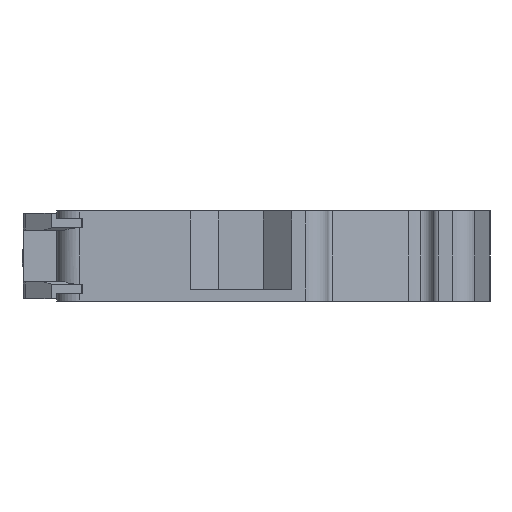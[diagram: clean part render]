
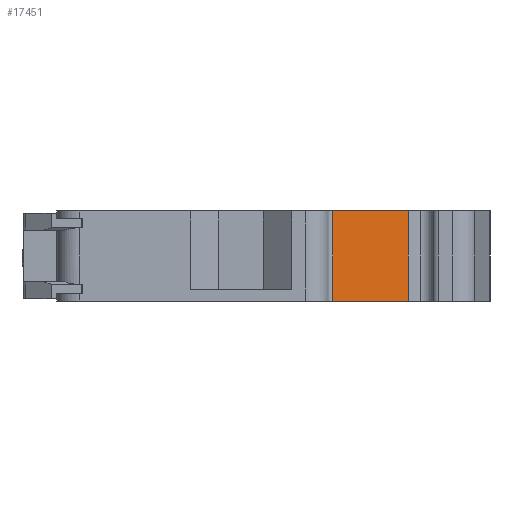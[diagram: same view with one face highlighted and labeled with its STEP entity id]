
A CAD part, left-side view. The second image highlights one B-rep face of the part: STEP entity #17451.
In plain terms, the highlighted planar face has unit normal (-0.991, -0.136, 0).
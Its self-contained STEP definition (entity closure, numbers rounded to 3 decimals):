
#17451 = ADVANCED_FACE('',(#17452),#17466,.F.);
#17452 = FACE_BOUND('',#17453,.T.);
#17453 = EDGE_LOOP('',(#17454,#17477,#17493,#17509));
#17454 = ORIENTED_EDGE('',*,*,#17455,.T.);
#17455 = EDGE_CURVE('',#17456,#17458,#17460,.T.);
#17456 = VERTEX_POINT('',#17457);
#17457 = CARTESIAN_POINT('',(43.402,328.038,-8.));
#17458 = VERTEX_POINT('',#17459);
#17459 = CARTESIAN_POINT('',(43.402,328.038,0.));
#17460 = SURFACE_CURVE('',#17461,(#17465),.PCURVE_S1.);
#17461 = LINE('',#17462,#17463);
#17462 = CARTESIAN_POINT('',(43.402,328.038,-8.));
#17463 = VECTOR('',#17464,1.);
#17464 = DIRECTION('',(0.,0.,1.));
#17465 = PCURVE('',#17466,#17471);
#17466 = PLANE('',#17467);
#17467 = AXIS2_PLACEMENT_3D('',#17468,#17469,#17470);
#17468 = CARTESIAN_POINT('',(43.402,328.038,-8.));
#17469 = DIRECTION('',(0.991,0.136,0.));
#17470 = DIRECTION('',(0.136,-0.991,0.));
#17471 = DEFINITIONAL_REPRESENTATION('',(#17472),#17476);
#17472 = LINE('',#17473,#17474);
#17473 = CARTESIAN_POINT('',(0.,0.));
#17474 = VECTOR('',#17475,1.);
#17475 = DIRECTION('',(0.,-1.));
#17476 = ( GEOMETRIC_REPRESENTATION_CONTEXT(2) 
PARAMETRIC_REPRESENTATION_CONTEXT() REPRESENTATION_CONTEXT('2D SPACE',''
  ) );
#17477 = ORIENTED_EDGE('',*,*,#17478,.T.);
#17478 = EDGE_CURVE('',#17458,#17479,#17481,.T.);
#17479 = VERTEX_POINT('',#17480);
#17480 = CARTESIAN_POINT('',(42.483,334.743,0.));
#17481 = SURFACE_CURVE('',#17482,(#17486),.PCURVE_S1.);
#17482 = LINE('',#17483,#17484);
#17483 = CARTESIAN_POINT('',(43.402,328.038,0.));
#17484 = VECTOR('',#17485,1.);
#17485 = DIRECTION('',(-0.136,0.991,0.));
#17486 = PCURVE('',#17466,#17487);
#17487 = DEFINITIONAL_REPRESENTATION('',(#17488),#17492);
#17488 = LINE('',#17489,#17490);
#17489 = CARTESIAN_POINT('',(0.,-8.));
#17490 = VECTOR('',#17491,1.);
#17491 = DIRECTION('',(-1.,0.));
#17492 = ( GEOMETRIC_REPRESENTATION_CONTEXT(2) 
PARAMETRIC_REPRESENTATION_CONTEXT() REPRESENTATION_CONTEXT('2D SPACE',''
  ) );
#17493 = ORIENTED_EDGE('',*,*,#17494,.F.);
#17494 = EDGE_CURVE('',#17495,#17479,#17497,.T.);
#17495 = VERTEX_POINT('',#17496);
#17496 = CARTESIAN_POINT('',(42.483,334.743,-8.));
#17497 = SURFACE_CURVE('',#17498,(#17502),.PCURVE_S1.);
#17498 = LINE('',#17499,#17500);
#17499 = CARTESIAN_POINT('',(42.483,334.743,-8.));
#17500 = VECTOR('',#17501,1.);
#17501 = DIRECTION('',(0.,0.,1.));
#17502 = PCURVE('',#17466,#17503);
#17503 = DEFINITIONAL_REPRESENTATION('',(#17504),#17508);
#17504 = LINE('',#17505,#17506);
#17505 = CARTESIAN_POINT('',(-6.768,0.));
#17506 = VECTOR('',#17507,1.);
#17507 = DIRECTION('',(0.,-1.));
#17508 = ( GEOMETRIC_REPRESENTATION_CONTEXT(2) 
PARAMETRIC_REPRESENTATION_CONTEXT() REPRESENTATION_CONTEXT('2D SPACE',''
  ) );
#17509 = ORIENTED_EDGE('',*,*,#17510,.F.);
#17510 = EDGE_CURVE('',#17456,#17495,#17511,.T.);
#17511 = SURFACE_CURVE('',#17512,(#17516),.PCURVE_S1.);
#17512 = LINE('',#17513,#17514);
#17513 = CARTESIAN_POINT('',(43.402,328.038,-8.));
#17514 = VECTOR('',#17515,1.);
#17515 = DIRECTION('',(-0.136,0.991,0.));
#17516 = PCURVE('',#17466,#17517);
#17517 = DEFINITIONAL_REPRESENTATION('',(#17518),#17522);
#17518 = LINE('',#17519,#17520);
#17519 = CARTESIAN_POINT('',(0.,0.));
#17520 = VECTOR('',#17521,1.);
#17521 = DIRECTION('',(-1.,0.));
#17522 = ( GEOMETRIC_REPRESENTATION_CONTEXT(2) 
PARAMETRIC_REPRESENTATION_CONTEXT() REPRESENTATION_CONTEXT('2D SPACE',''
  ) );
